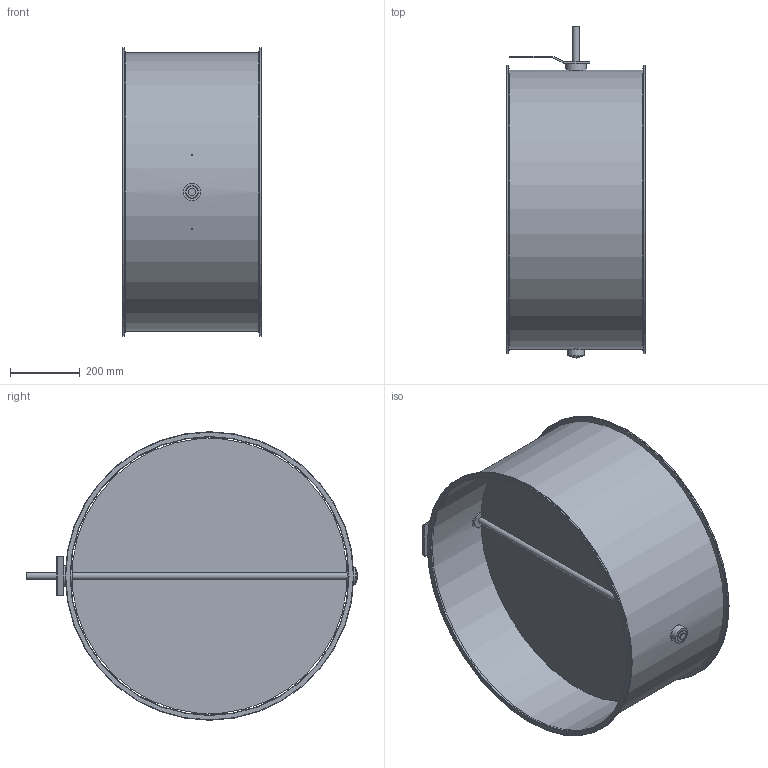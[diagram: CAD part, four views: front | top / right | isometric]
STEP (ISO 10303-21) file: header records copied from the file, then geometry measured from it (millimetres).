
FILE_DESCRIPTION(/* description */ (''),/* implementation_level */ '2;1');
FILE_NAME(/* name */ 'EA115-80B__800_L440_Belimo_Typen_NF_SF.stp',/* time_stamp */ '2017-12-06T16:26:20+01:00',/* author */ (''),/* organization */ (''),/* preprocessor_version */ 'ST-DEVELOPER v11',/* originating_system */ 'SIEMENS UGS NX 6.0',/* authorisation */ '');
FILE_SCHEMA (('CONFIG_CONTROL_DESIGN'));
Length unit declared in the file: millimetre
Products named in the file (1): gars18E2j2jo
Bounding box: 400 x 955 x 830 mm (x, y, z)
Volume: 2808330.7 mm3; surface area: 3277822.4 mm2
Topology: 8 solids, 8 shells, 79 faces, 167 edges, 106 vertices
Faces by surface type: plane 36, cylinder 35, torus 6, cone 2
Full cylindrical faces by diameter (mm): 8.1 x7, 20 x3, 35 x3, 35.85 x2, 36 x2, 49 x1, 50 x2, 59 x1, 800 x1, 802.4 x1, 830 x2
Entity records: 2094 total; most frequent: CARTESIAN_POINT 400, DIRECTION 352, ORIENTED_EDGE 248, AXIS2_PLACEMENT_3D 152, EDGE_LOOP 144, EDGE_CURVE 124, FACE_BOUND 114, VERTEX_POINT 96
